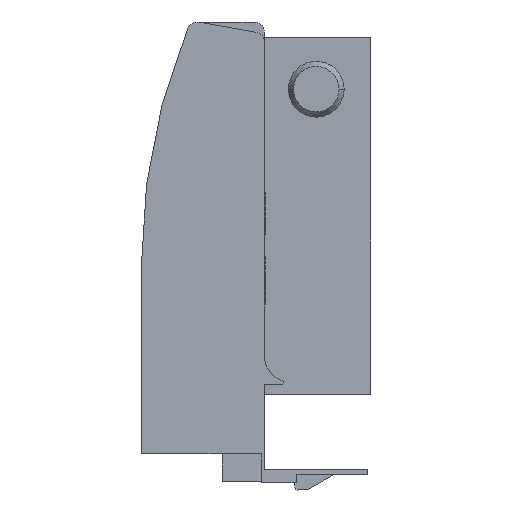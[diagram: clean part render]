
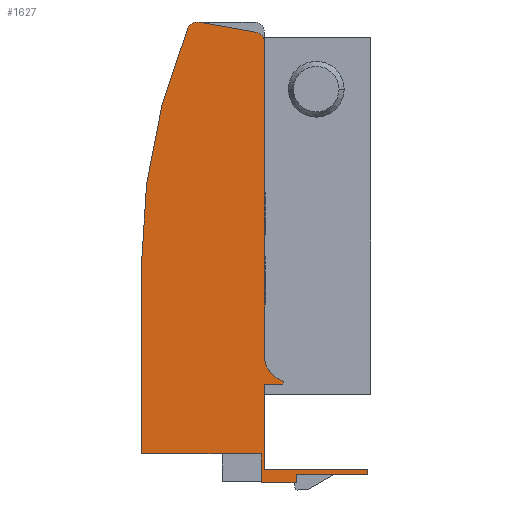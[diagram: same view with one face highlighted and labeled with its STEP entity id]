
A CAD part, front view. The second image highlights one B-rep face of the part: STEP entity #1627.
In plain terms, the highlighted planar face has unit normal (0, -1, 0).
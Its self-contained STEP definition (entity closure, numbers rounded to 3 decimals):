
#2 = VECTOR ( 'NONE', #1560, 1000. ) ;
#3 = LINE ( 'NONE', #1529, #8 ) ;
#5 = LINE ( 'NONE', #1557, #34 ) ;
#8 = VECTOR ( 'NONE', #1530, 1000. ) ;
#13 = VECTOR ( 'NONE', #1467, 1000. ) ;
#20 = CIRCLE ( 'NONE', #409, 2. ) ;
#23 = LINE ( 'NONE', #1466, #13 ) ;
#32 = LINE ( 'NONE', #1495, #84 ) ;
#34 = VECTOR ( 'NONE', #1558, 1000. ) ;
#38 = VECTOR ( 'NONE', #1556, 1000. ) ;
#41 = VECTOR ( 'NONE', #1562, 1000. ) ;
#42 = LINE ( 'NONE', #1491, #62 ) ;
#48 = LINE ( 'NONE', #1555, #38 ) ;
#49 = VECTOR ( 'NONE', #1477, 1000. ) ;
#51 = VECTOR ( 'NONE', #1519, 1000. ) ;
#59 = LINE ( 'NONE', #1518, #51 ) ;
#62 = VECTOR ( 'NONE', #1492, 1000. ) ;
#63 = VECTOR ( 'NONE', #1551, 1000. ) ;
#69 = CIRCLE ( 'NONE', #407, 2. ) ;
#70 = LINE ( 'NONE', #1559, #2 ) ;
#73 = LINE ( 'NONE', #1561, #41 ) ;
#77 = CIRCLE ( 'NONE', #410, 120.6 ) ;
#78 = LINE ( 'NONE', #1476, #49 ) ;
#80 = LINE ( 'NONE', #1550, #63 ) ;
#84 = VECTOR ( 'NONE', #1496, 1000. ) ;
#223 = EDGE_CURVE ( 'NONE', #1009, #996, #2090, .T. ) ;
#231 = EDGE_CURVE ( 'NONE', #1032, #960, #2073, .T. ) ;
#234 = EDGE_CURVE ( 'NONE', #960, #959, #2069, .T. ) ;
#239 = EDGE_CURVE ( 'NONE', #1000, #1032, #23, .T. ) ;
#243 = EDGE_CURVE ( 'NONE', #997, #1016, #78, .T. ) ;
#250 = EDGE_CURVE ( 'NONE', #982, #1009, #42, .T. ) ;
#252 = EDGE_CURVE ( 'NONE', #989, #997, #32, .T. ) ;
#262 = EDGE_CURVE ( 'NONE', #1005, #984, #59, .T. ) ;
#267 = EDGE_CURVE ( 'NONE', #996, #1005, #3, .T. ) ;
#271 = EDGE_CURVE ( 'NONE', #1031, #1034, #69, .T. ) ;
#275 = EDGE_CURVE ( 'NONE', #1000, #1010, #20, .T. ) ;
#276 = EDGE_CURVE ( 'NONE', #1010, #1034, #80, .T. ) ;
#277 = EDGE_CURVE ( 'NONE', #984, #1031, #77, .T. ) ;
#278 = EDGE_CURVE ( 'NONE', #987, #982, #48, .T. ) ;
#279 = EDGE_CURVE ( 'NONE', #990, #987, #5, .T. ) ;
#280 = EDGE_CURVE ( 'NONE', #1016, #990, #70, .T. ) ;
#281 = EDGE_CURVE ( 'NONE', #959, #989, #73, .T. ) ;
#400 = AXIS2_PLACEMENT_3D ( 'NONE', #1449, #1450, #1451 ) ;
#407 = AXIS2_PLACEMENT_3D ( 'NONE', #1537, #1538, #1539 ) ;
#409 = AXIS2_PLACEMENT_3D ( 'NONE', #1547, #1548, #1549 ) ;
#410 = AXIS2_PLACEMENT_3D ( 'NONE', #1552, #1553, #1554 ) ;
#428 = AXIS2_PLACEMENT_3D ( 'NONE', #1816, #1817, #1818 ) ;
#481 = FACE_OUTER_BOUND ( 'NONE', #931, .T. ) ;
#680 = ORIENTED_EDGE ( 'NONE', *, *, #223, .F. ) ;
#686 = ORIENTED_EDGE ( 'NONE', *, *, #231, .F. ) ;
#690 = ORIENTED_EDGE ( 'NONE', *, *, #275, .T. ) ;
#697 = ORIENTED_EDGE ( 'NONE', *, *, #250, .F. ) ;
#705 = ORIENTED_EDGE ( 'NONE', *, *, #267, .F. ) ;
#708 = ORIENTED_EDGE ( 'NONE', *, *, #280, .F. ) ;
#711 = ORIENTED_EDGE ( 'NONE', *, *, #252, .F. ) ;
#717 = ORIENTED_EDGE ( 'NONE', *, *, #271, .F. ) ;
#726 = ORIENTED_EDGE ( 'NONE', *, *, #262, .F. ) ;
#730 = ORIENTED_EDGE ( 'NONE', *, *, #239, .F. ) ;
#732 = ORIENTED_EDGE ( 'NONE', *, *, #234, .F. ) ;
#739 = ORIENTED_EDGE ( 'NONE', *, *, #278, .F. ) ;
#762 = ORIENTED_EDGE ( 'NONE', *, *, #281, .F. ) ;
#780 = ORIENTED_EDGE ( 'NONE', *, *, #276, .T. ) ;
#857 = ORIENTED_EDGE ( 'NONE', *, *, #277, .F. ) ;
#898 = ORIENTED_EDGE ( 'NONE', *, *, #279, .F. ) ;
#901 = ORIENTED_EDGE ( 'NONE', *, *, #243, .F. ) ;
#931 = EDGE_LOOP ( 'NONE', ( #732, #686, #730, #690, #780, #717, #857, #726, #705, #680, #697, #739, #898, #708, #901, #711, #762 ) ) ;
#959 = VERTEX_POINT ( 'NONE', #1719 ) ;
#960 = VERTEX_POINT ( 'NONE', #1720 ) ;
#982 = VERTEX_POINT ( 'NONE', #1740 ) ;
#984 = VERTEX_POINT ( 'NONE', #1742 ) ;
#987 = VERTEX_POINT ( 'NONE', #1745 ) ;
#989 = VERTEX_POINT ( 'NONE', #1747 ) ;
#990 = VERTEX_POINT ( 'NONE', #1748 ) ;
#996 = VERTEX_POINT ( 'NONE', #1754 ) ;
#997 = VERTEX_POINT ( 'NONE', #1755 ) ;
#1000 = VERTEX_POINT ( 'NONE', #1757 ) ;
#1005 = VERTEX_POINT ( 'NONE', #1761 ) ;
#1009 = VERTEX_POINT ( 'NONE', #1765 ) ;
#1010 = VERTEX_POINT ( 'NONE', #1766 ) ;
#1016 = VERTEX_POINT ( 'NONE', #1771 ) ;
#1031 = VERTEX_POINT ( 'NONE', #1786 ) ;
#1032 = VERTEX_POINT ( 'NONE', #1787 ) ;
#1034 = VERTEX_POINT ( 'NONE', #1789 ) ;
#1433 = CARTESIAN_POINT ( 'NONE',  ( 20.9, 0., -19.1 ) ) ;
#1434 = DIRECTION ( 'NONE',  ( 0., 0., 1. ) ) ;
#1449 = CARTESIAN_POINT ( 'NONE',  ( 26.5, 0., 5.395 ) ) ;
#1450 = DIRECTION ( 'NONE',  ( 0., -1., 0. ) ) ;
#1451 = DIRECTION ( 'NONE',  ( -1., 0., 0. ) ) ;
#1456 = CARTESIAN_POINT ( 'NONE',  ( 25.161, 0., 0.578 ) ) ;
#1457 = DIRECTION ( 'NONE',  ( -0.268, 0., -0.963 ) ) ;
#1466 = CARTESIAN_POINT ( 'NONE',  ( 21.5, 0., 68. ) ) ;
#1467 = DIRECTION ( 'NONE',  ( 0., 0., -1. ) ) ;
#1476 = CARTESIAN_POINT ( 'NONE',  ( 21.5, 0., -16.5 ) ) ;
#1477 = DIRECTION ( 'NONE',  ( 1., 0., 0. ) ) ;
#1491 = CARTESIAN_POINT ( 'NONE',  ( 27.599, 0., -19.1 ) ) ;
#1492 = DIRECTION ( 'NONE',  ( -1., 0., 0. ) ) ;
#1495 = CARTESIAN_POINT ( 'NONE',  ( 21.5, 0., 0. ) ) ;
#1496 = DIRECTION ( 'NONE',  ( 0., 0., -1. ) ) ;
#1518 = CARTESIAN_POINT ( 'NONE',  ( -2.3, 0., -13.5 ) ) ;
#1519 = DIRECTION ( 'NONE',  ( 0., 0., 1. ) ) ;
#1529 = CARTESIAN_POINT ( 'NONE',  ( 21.5, 0., -13.5 ) ) ;
#1530 = DIRECTION ( 'NONE',  ( -1., 0., 0. ) ) ;
#1537 = CARTESIAN_POINT ( 'NONE',  ( 8.5, 0., 68. ) ) ;
#1538 = DIRECTION ( 'NONE',  ( 0., 1., 0. ) ) ;
#1539 = DIRECTION ( 'NONE',  ( -1., 0., 0. ) ) ;
#1547 = CARTESIAN_POINT ( 'NONE',  ( 19.5, 0., 66.06 ) ) ;
#1548 = DIRECTION ( 'NONE',  ( 0., -1., 0. ) ) ;
#1549 = DIRECTION ( 'NONE',  ( -1., 0., 0. ) ) ;
#1550 = CARTESIAN_POINT ( 'NONE',  ( 8.847, 0., 69.97 ) ) ;
#1551 = DIRECTION ( 'NONE',  ( -0.985, 0., 0.174 ) ) ;
#1552 = CARTESIAN_POINT ( 'NONE',  ( 118.3, 0., 23.168 ) ) ;
#1553 = DIRECTION ( 'NONE',  ( 0., 1., 0. ) ) ;
#1554 = DIRECTION ( 'NONE',  ( -1., 0., 0. ) ) ;
#1555 = CARTESIAN_POINT ( 'NONE',  ( 27.599, 0., -17.528 ) ) ;
#1556 = DIRECTION ( 'NONE',  ( 0., 0., -1. ) ) ;
#1557 = CARTESIAN_POINT ( 'NONE',  ( 41.499, 0., -17.528 ) ) ;
#1558 = DIRECTION ( 'NONE',  ( -1., 0., 0. ) ) ;
#1559 = CARTESIAN_POINT ( 'NONE',  ( 41.499, 0., -16.5 ) ) ;
#1560 = DIRECTION ( 'NONE',  ( 0., 0., -1. ) ) ;
#1561 = CARTESIAN_POINT ( 'NONE',  ( 25., 0., 0. ) ) ;
#1562 = DIRECTION ( 'NONE',  ( -1., 0., 0. ) ) ;
#1627 = ADVANCED_FACE ( 'NONE', ( #481 ), #1815, .T. ) ;
#1719 = CARTESIAN_POINT ( 'NONE',  ( 25., 0., 0. ) ) ;
#1720 = CARTESIAN_POINT ( 'NONE',  ( 25.161, 0., 0.578 ) ) ;
#1740 = CARTESIAN_POINT ( 'NONE',  ( 27.599, 0., -19.1 ) ) ;
#1742 = CARTESIAN_POINT ( 'NONE',  ( -2.3, 0., 23.168 ) ) ;
#1745 = CARTESIAN_POINT ( 'NONE',  ( 27.599, 0., -17.528 ) ) ;
#1747 = CARTESIAN_POINT ( 'NONE',  ( 21.5, 0., 0. ) ) ;
#1748 = CARTESIAN_POINT ( 'NONE',  ( 41.499, 0., -17.528 ) ) ;
#1754 = CARTESIAN_POINT ( 'NONE',  ( 20.9, 0., -13.5 ) ) ;
#1755 = CARTESIAN_POINT ( 'NONE',  ( 21.5, 0., -16.5 ) ) ;
#1757 = CARTESIAN_POINT ( 'NONE',  ( 21.5, 0., 66.06 ) ) ;
#1761 = CARTESIAN_POINT ( 'NONE',  ( -2.3, 0., -13.5 ) ) ;
#1765 = CARTESIAN_POINT ( 'NONE',  ( 20.9, 0., -19.1 ) ) ;
#1766 = CARTESIAN_POINT ( 'NONE',  ( 19.847, 0., 68.03 ) ) ;
#1771 = CARTESIAN_POINT ( 'NONE',  ( 41.499, 0., -16.5 ) ) ;
#1786 = CARTESIAN_POINT ( 'NONE',  ( 6.648, 0., 68.756 ) ) ;
#1787 = CARTESIAN_POINT ( 'NONE',  ( 21.5, 0., 5.395 ) ) ;
#1789 = CARTESIAN_POINT ( 'NONE',  ( 8.847, 0., 69.97 ) ) ;
#1815 = PLANE ( 'NONE',  #428 ) ;
#1816 = CARTESIAN_POINT ( 'NONE',  ( 4.5, 0., 34.728 ) ) ;
#1817 = DIRECTION ( 'NONE',  ( 0., -1., 0. ) ) ;
#1818 = DIRECTION ( 'NONE',  ( -1., 0., 0. ) ) ;
#2068 = VECTOR ( 'NONE', #1457, 1000. ) ;
#2069 = LINE ( 'NONE', #1456, #2068 ) ;
#2073 = CIRCLE ( 'NONE', #400, 5. ) ;
#2089 = VECTOR ( 'NONE', #1434, 1000. ) ;
#2090 = LINE ( 'NONE', #1433, #2089 ) ;
